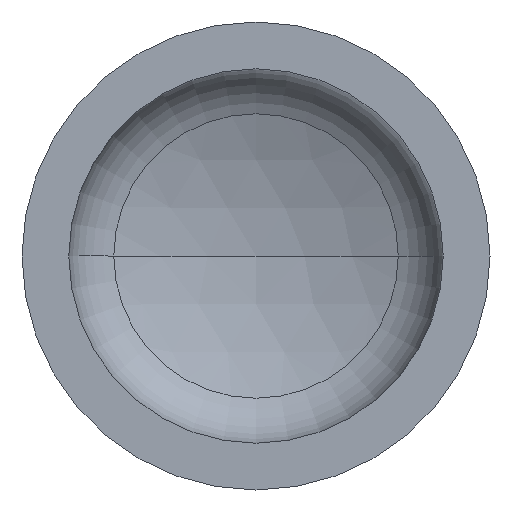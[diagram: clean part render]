
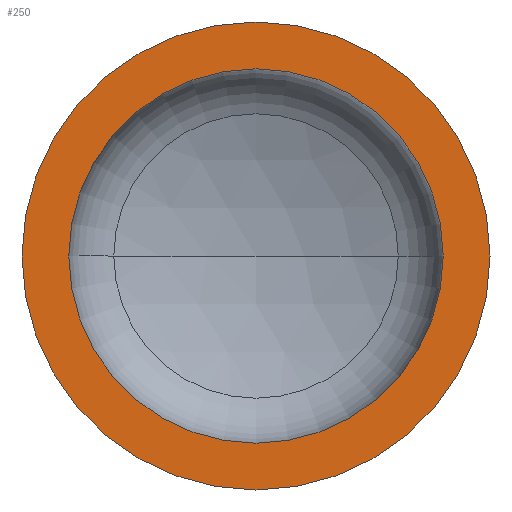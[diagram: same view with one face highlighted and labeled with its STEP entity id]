
A CAD part, front view. The second image highlights one B-rep face of the part: STEP entity #250.
In plain terms, the highlighted planar face has unit normal (0, -1, 0).
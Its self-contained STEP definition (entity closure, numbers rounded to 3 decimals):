
#14 = AXIS2_PLACEMENT_3D ( 'NONE', #316, #294, #137 ) ;
#16 = VERTEX_POINT ( 'NONE', #372 ) ;
#17 = CIRCLE ( 'NONE', #24, 500. ) ;
#19 = EDGE_LOOP ( 'NONE', ( #70, #392 ) ) ;
#20 = CIRCLE ( 'NONE', #27, 400. ) ;
#24 = AXIS2_PLACEMENT_3D ( 'NONE', #361, #411, #315 ) ;
#27 = AXIS2_PLACEMENT_3D ( 'NONE', #290, #126, #168 ) ;
#29 = FACE_BOUND ( 'NONE', #42, .T. ) ;
#42 = EDGE_LOOP ( 'NONE', ( #115, #104 ) ) ;
#68 = VERTEX_POINT ( 'NONE', #355 ) ;
#69 = AXIS2_PLACEMENT_3D ( 'NONE', #284, #283, #282 ) ;
#70 = ORIENTED_EDGE ( 'NONE', *, *, #101, .T. ) ;
#76 = AXIS2_PLACEMENT_3D ( 'NONE', #304, #303, #301 ) ;
#101 = EDGE_CURVE ( 'NONE', #16, #148, #377, .T. ) ;
#104 = ORIENTED_EDGE ( 'NONE', *, *, #110, .F. ) ;
#110 = EDGE_CURVE ( 'NONE', #127, #68, #268, .T. ) ;
#115 = ORIENTED_EDGE ( 'NONE', *, *, #239, .F. ) ;
#126 = DIRECTION ( 'NONE',  ( 0., -1., 0. ) ) ;
#127 = VERTEX_POINT ( 'NONE', #221 ) ;
#137 = DIRECTION ( 'NONE',  ( -1., 0., 0. ) ) ;
#141 = FACE_OUTER_BOUND ( 'NONE', #19, .T. ) ;
#148 = VERTEX_POINT ( 'NONE', #210 ) ;
#168 = DIRECTION ( 'NONE',  ( 1., 0., 0. ) ) ;
#210 = CARTESIAN_POINT ( 'NONE',  ( -500., 0., 0. ) ) ;
#219 = PLANE ( 'NONE',  #14 ) ;
#221 = CARTESIAN_POINT ( 'NONE',  ( -400., 0., 0. ) ) ;
#239 = EDGE_CURVE ( 'NONE', #68, #127, #20, .T. ) ;
#246 = EDGE_CURVE ( 'NONE', #148, #16, #17, .T. ) ;
#250 = ADVANCED_FACE ( 'NONE', ( #29, #141 ), #219, .F. ) ;
#268 = CIRCLE ( 'NONE', #69, 400. ) ;
#282 = DIRECTION ( 'NONE',  ( 1., 0., 0. ) ) ;
#283 = DIRECTION ( 'NONE',  ( 0., -1., 0. ) ) ;
#284 = CARTESIAN_POINT ( 'NONE',  ( 0., 0., 0. ) ) ;
#290 = CARTESIAN_POINT ( 'NONE',  ( 0., 0., 0. ) ) ;
#294 = DIRECTION ( 'NONE',  ( 0., 1., 0. ) ) ;
#301 = DIRECTION ( 'NONE',  ( 1., 0., 0. ) ) ;
#303 = DIRECTION ( 'NONE',  ( 0., -1., 0. ) ) ;
#304 = CARTESIAN_POINT ( 'NONE',  ( 0., 0., 0. ) ) ;
#315 = DIRECTION ( 'NONE',  ( 1., 0., 0. ) ) ;
#316 = CARTESIAN_POINT ( 'NONE',  ( -500., 0., 0. ) ) ;
#355 = CARTESIAN_POINT ( 'NONE',  ( 400., 0., 0. ) ) ;
#361 = CARTESIAN_POINT ( 'NONE',  ( 0., 0., 0. ) ) ;
#372 = CARTESIAN_POINT ( 'NONE',  ( 500., 0., 0. ) ) ;
#377 = CIRCLE ( 'NONE', #76, 500. ) ;
#392 = ORIENTED_EDGE ( 'NONE', *, *, #246, .T. ) ;
#411 = DIRECTION ( 'NONE',  ( 0., -1., 0. ) ) ;
